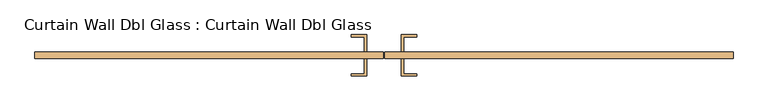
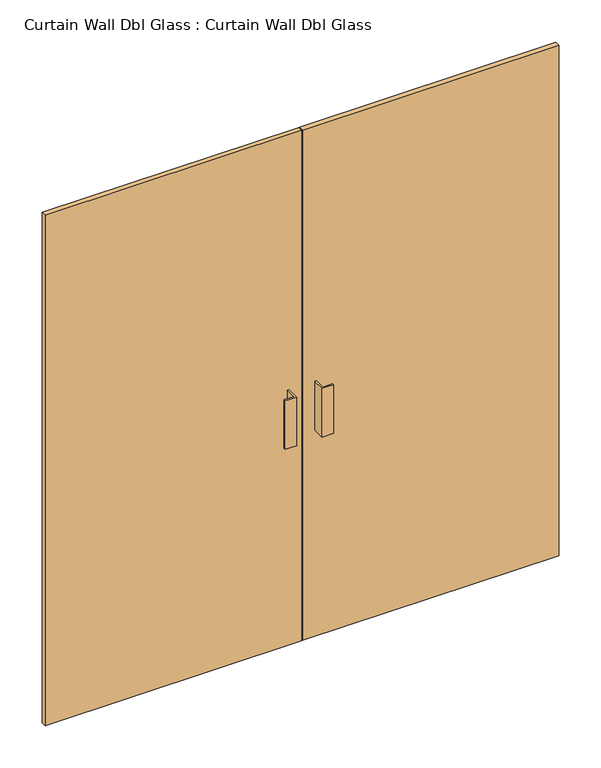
"""IFC4 building model written with IfcOpenShell, lengths in millimetres: door geometry, Curtain Wall Dbl Glass : Curtain Wall Dbl Glass."""

from ifc_helpers import new_model, si_unit, frame, origin, origin_with_axes, place, context, project, spatial, polyline, outline, extrude, source, transform, mapped, element, save


def curtain_wall_dbl_glass_curtain_wall_dbl_glass_d7d74fe3(model_context):
    return source(origin(), model_context, "Body", "SweptSolid", [
        extrude(outline(polyline([(-1.5875, 31.75), (-1016.0, 31.75), (-1016.0, 50.8), (-1.5875, 50.8), (-1.5875, 31.75)])), origin_with_axes(), (0.0, 0.0, 1.0), 2133.6),
        extrude(outline(polyline([(1016.0, 31.75), (1.5875, 31.75), (1.5875, 50.8), (1016.0, 50.8), (1016.0, 31.75)])), origin_with_axes(), (0.0, 0.0, 1.0), 2133.6),
        extrude(outline(polyline([(-50.8, 101.6), (-50.8, 50.8), (-57.15, 50.8), (-57.15, 95.25), (-95.25, 95.25), (-95.25, 101.6), (-50.8, 101.6)])), frame((0.0, 0.0, 863.6), z_axis=(0.0, 0.0, 1.0), x_axis=(1.0, 0.0, 0.0)), (0.0, 0.0, 1.0), 203.2),
        extrude(outline(polyline([(50.8, 101.6), (95.25, 101.6), (95.25, 95.25), (57.15, 95.25), (57.15, 50.8), (50.8, 50.8), (50.8, 101.6)])), frame((0.0, 0.0, 863.6), z_axis=(0.0, 0.0, 1.0), x_axis=(1.0, 0.0, 0.0)), (0.0, 0.0, 1.0), 203.2),
        extrude(outline(polyline([(-50.8, -19.05), (-95.25, -19.05), (-95.25, -12.7), (-57.15, -12.7), (-57.15, 31.75), (-50.8, 31.75), (-50.8, -19.05)])), frame((0.0, 0.0, 863.6), z_axis=(0.0, 0.0, 1.0), x_axis=(1.0, 0.0, 0.0)), (0.0, 0.0, 1.0), 203.2),
        extrude(outline(polyline([(50.8, -19.05), (50.8, 31.75), (57.15, 31.75), (57.15, -12.7), (95.25, -12.7), (95.25, -19.05), (50.8, -19.05)])), frame((0.0, 0.0, 863.6), z_axis=(0.0, 0.0, 1.0), x_axis=(1.0, 0.0, 0.0)), (0.0, 0.0, 1.0), 203.2),
    ])


if __name__ == "__main__":
    model = new_model("IFC4")
    model_context = context("Model", 3, world=origin())
    ifc_project = project(units=[si_unit("LENGTHUNIT", "METRE", prefix="MILLI")], contexts=[model_context])
    site = spatial("IfcSite", under=ifc_project)
    building = spatial("IfcBuilding", under=site)
    placement = place(None, origin())
    curtain_wall_dbl_glass_curtain_wall_dbl_glass_shape = curtain_wall_dbl_glass_curtain_wall_dbl_glass_d7d74fe3(model_context)
    element("IfcDoor", 1, ObjectType="Curtain Wall Dbl Glass : Curtain Wall Dbl Glass", at=placement, inside=building, context=model_context, shape_type="MappedRepresentation", body=[
        mapped(curtain_wall_dbl_glass_curtain_wall_dbl_glass_shape, transform((0.0, 0.0, 0.0), x_axis=(1.0, 0.0, 0.0), y_axis=(0.0, 1.0, 0.0), z_axis=(0.0, 0.0, 1.0))),
    ])
    save(model, "model.ifc")
